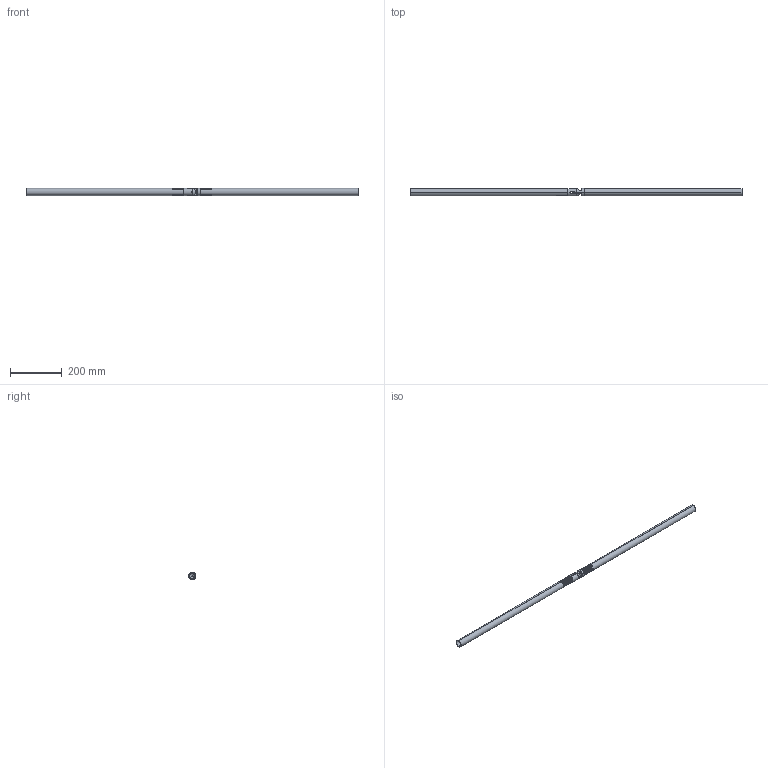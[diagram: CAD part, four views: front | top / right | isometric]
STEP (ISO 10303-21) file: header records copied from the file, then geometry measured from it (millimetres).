
FILE_DESCRIPTION (( 'STEP AP214' ), '1' );
FILE_NAME ('Male to Female.STEP', '2013-08-19T15:57:27', ( 'ydmin' ), ( 'Microsoft' ), 'SwSTEP 2.0', 'SolidWorks 2013', '' );
FILE_SCHEMA (( 'AUTOMOTIVE_DESIGN' ));
Length unit declared in the file: inch
Products named in the file (6): 91255A542_91255A542; 6.000 Inch Tube; DRP-002-0509-00_MALE YOKE TUBE INSERT; 91990A255 (1)_91990A255; DRP-002-0510-00_FEMALE YOKE TUBE INSERT; Male to Female
Assembly tree (6 placements, depth 2):
  Male to Female
    DRP-002-0510-00_FEMALE YOKE TUBE INSERT
    91990A255 (1)_91990A255
    DRP-002-0509-00_MALE YOKE TUBE INSERT
    6.000 Inch Tube  x2
    91255A542_91255A542
Bounding box: 1280.97 x 30.47 x 28.57 mm (x, y, z)
Volume: 149066.7 mm3; surface area: 230866.6 mm2
Topology: 6 solids, 6 shells, 670 faces, 1790 edges, 1131 vertices
Faces by surface type: cylinder 305, plane 236, cone 99, torus 16, bspline 8, sphere 6
Entity records: 25083 total; most frequent: CARTESIAN_POINT 8065, DIRECTION 3579, ORIENTED_EDGE 3548, EDGE_CURVE 1774, AXIS2_PLACEMENT_3D 1285, VERTEX_POINT 1123, VECTOR 1009, LINE 1009
